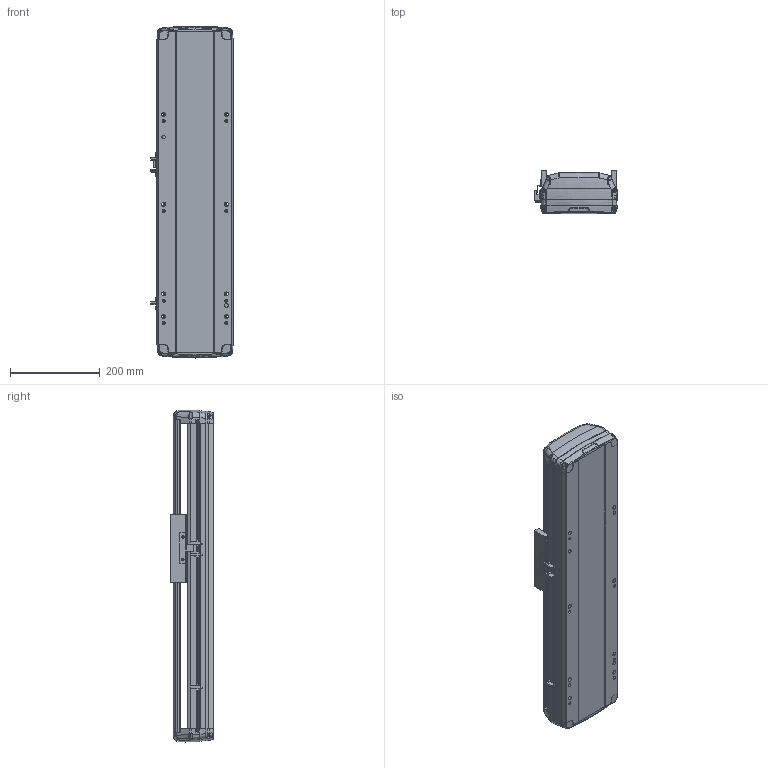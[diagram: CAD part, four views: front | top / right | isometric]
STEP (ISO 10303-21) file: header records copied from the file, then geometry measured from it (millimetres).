
FILE_DESCRIPTION (( 'STEP AP214' ), '1' );
FILE_NAME ('RTH17-XX-300-B-M40B-C4.STEP', '2025-10-24T09:13:49', ( '' ), ( '' ), 'SwSTEP 2.0', 'SolidWorks 2018', '' );
FILE_SCHEMA (( 'AUTOMOTIVE_DESIGN' ));
Length unit declared in the file: millimetre
Products named in the file (7): N_RTH17-M-007B上盖^RTH17-XX-XX-B-M40B-C4（方程式）; N_RTH17-GY-001P^RTH17-XX-XX-B-M40B-C4（方程式）; N_RTH17-E-004丝杆螺母连接座^RTH17-XX-XX-B-M40B-C4（方程式）; N_RTH17-M-011B底座^RTH17-XX-XX-B-M40B-C4（方程式）; N_OMRON EE-SX672 換覜ん^RTH17-XX-XX-B-M40B-C4ㄗ源最宒ㄘ; N_RTH-L-012 感应片(外置)^RTH17-XX-XX-B-M40B-C4（方程式）; RTH17-XX-300-B-M40B-C4
Assembly tree (9 placements, depth 2):
  RTH17-XX-300-B-M40B-C4
    N_RTH17-M-011B底座^RTH17-XX-XX-B-M40B-C4（方程式）
    N_RTH17-M-007B上盖^RTH17-XX-XX-B-M40B-C4（方程式）
    N_OMRON EE-SX672 換覜ん^RTH17-XX-XX-B-M40B-C4ㄗ源最宒ㄘ  x3
    N_RTH-L-012 感应片(外置)^RTH17-XX-XX-B-M40B-C4（方程式）
    N_RTH17-E-004丝杆螺母连接座^RTH17-XX-XX-B-M40B-C4（方程式）
    N_RTH17-GY-001P^RTH17-XX-XX-B-M40B-C4（方程式）  x2
Bounding box: 183.5 x 97 x 740.04 mm (x, y, z)
Volume: 5615952 mm3; surface area: 826287.9 mm2
Topology: 7 solids, 11 shells, 1704 faces, 4772 edges, 3098 vertices
Faces by surface type: plane 807, cylinder 431, bspline 420, cone 28, torus 18
Entity records: 39510 total; most frequent: CARTESIAN_POINT 16535, ORIENTED_EDGE 5048, DIRECTION 3976, EDGE_CURVE 2528, VERTEX_POINT 1652, LINE 1400, VECTOR 1400, AXIS2_PLACEMENT_3D 1288
